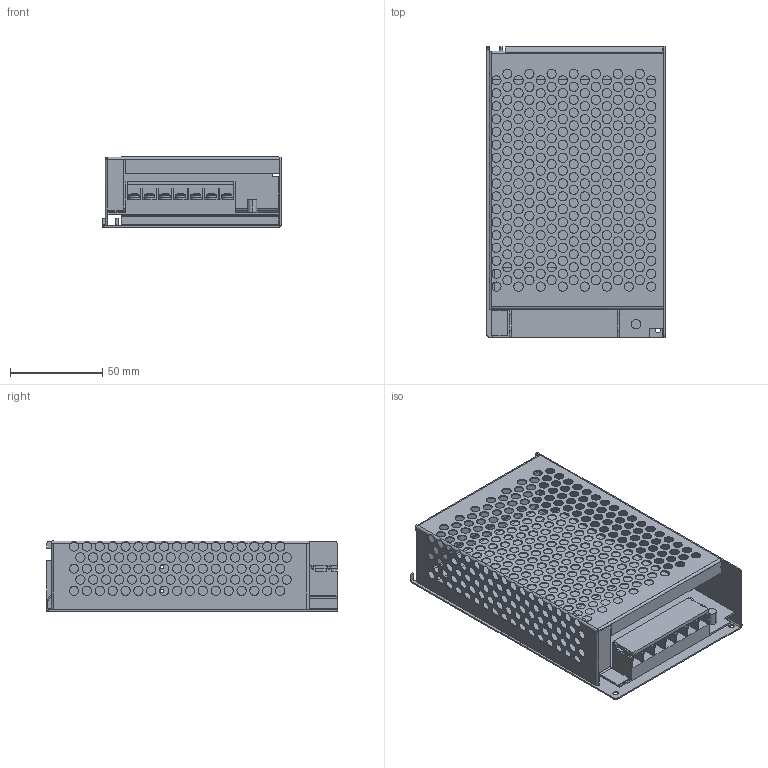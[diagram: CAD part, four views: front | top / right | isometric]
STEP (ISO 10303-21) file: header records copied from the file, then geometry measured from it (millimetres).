
FILE_DESCRIPTION (( 'STEP AP203' ), '1' );
FILE_NAME ('MS-100-12.STEP', '2020-02-26T14:08:38', ( '' ), ( '' ), 'SwSTEP 2.0', 'SolidWorks 2019', '' );
FILE_SCHEMA (( 'CONFIG_CONTROL_DESIGN' ));
Length unit declared in the file: millimetre
Products named in the file (1): MS-100-12
Bounding box: 97 x 158 x 38.07 mm (x, y, z)
Volume: 46933.4 mm3; surface area: 112025.7 mm2
Topology: 18 solids, 18 shells, 1171 faces, 3217 edges, 2070 vertices
Faces by surface type: cylinder 813, plane 311, bspline 19, torus 14, sphere 14
Entity records: 40273 total; most frequent: CARTESIAN_POINT 7607, DIRECTION 7251, ORIENTED_EDGE 6434, EDGE_CURVE 3217, AXIS2_PLACEMENT_3D 2953, VERTEX_POINT 2070, EDGE_LOOP 1861, CIRCLE 1800
